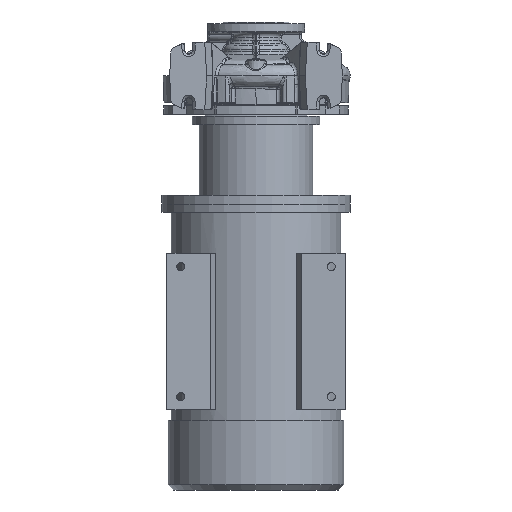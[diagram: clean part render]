
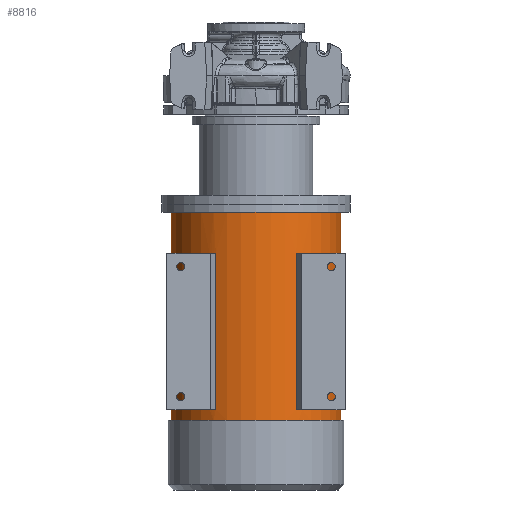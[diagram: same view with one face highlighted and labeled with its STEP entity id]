
A CAD part, front view. The second image highlights one B-rep face of the part: STEP entity #8816.
In plain terms, the highlighted cylindrical face has radius 157.5 mm (diameter 315 mm), a partial arc.
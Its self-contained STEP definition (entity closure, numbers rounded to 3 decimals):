
#1232 = VECTOR ( 'NONE', #6433, 1000. ) ;
#3007 = CARTESIAN_POINT ( 'NONE',  ( 157.5, 0., -638.3 ) ) ;
#3044 = CARTESIAN_POINT ( 'NONE',  ( -157.5, 0., -638.3 ) ) ;
#3651 = DIRECTION ( 'NONE',  ( 0., 0., -1. ) ) ;
#3772 = VERTEX_POINT ( 'NONE', #77335 ) ;
#4699 = CYLINDRICAL_SURFACE ( 'NONE', #55813, 157.5 ) ;
#5723 = AXIS2_PLACEMENT_3D ( 'NONE', #59594, #25848, #25564 ) ;
#6433 = DIRECTION ( 'NONE',  ( 0., 0., -1. ) ) ;
#6602 = CARTESIAN_POINT ( 'NONE',  ( 0., 0., -638.3 ) ) ;
#6775 = CARTESIAN_POINT ( 'NONE',  ( 74.479, -138.777, -618.8 ) ) ;
#6824 = VERTEX_POINT ( 'NONE', #3044 ) ;
#8562 = CARTESIAN_POINT ( 'NONE',  ( -74.479, -138.777, -618.8 ) ) ;
#8816 = ADVANCED_FACE ( 'NONE', ( #54756, #9016, #64528 ), #4699, .T. ) ;
#9016 = FACE_BOUND ( 'NONE', #28162, .T. ) ;
#9833 = ORIENTED_EDGE ( 'NONE', *, *, #36412, .F. ) ;
#11827 = CIRCLE ( 'NONE', #85971, 157.5 ) ;
#12126 = CARTESIAN_POINT ( 'NONE',  ( 0., 0., -328.8 ) ) ;
#12633 = CARTESIAN_POINT ( 'NONE',  ( 0., 0., -618.8 ) ) ;
#13767 = ORIENTED_EDGE ( 'NONE', *, *, #88246, .T. ) ;
#14919 = CARTESIAN_POINT ( 'NONE',  ( 86.091, -131.889, -767.3 ) ) ;
#15345 = CARTESIAN_POINT ( 'NONE',  ( -157.5, 0., -252.3 ) ) ;
#16056 = VECTOR ( 'NONE', #62670, 1000. ) ;
#17167 = EDGE_CURVE ( 'NONE', #46474, #18650, #84107, .T. ) ;
#17194 = DIRECTION ( 'NONE',  ( -1., 0., 0. ) ) ;
#17214 = EDGE_LOOP ( 'NONE', ( #31939, #66684, #75159, #40599 ) ) ;
#18229 = LINE ( 'NONE', #69943, #16056 ) ;
#18650 = VERTEX_POINT ( 'NONE', #25255 ) ;
#21902 = DIRECTION ( 'NONE',  ( 0., 0., 1. ) ) ;
#22750 = VERTEX_POINT ( 'NONE', #87133 ) ;
#23783 = CARTESIAN_POINT ( 'NONE',  ( 157.5, 0., -767.3 ) ) ;
#25255 = CARTESIAN_POINT ( 'NONE',  ( -86.091, -131.889, -618.8 ) ) ;
#25564 = DIRECTION ( 'NONE',  ( -1., 0., 0. ) ) ;
#25848 = DIRECTION ( 'NONE',  ( 0., 0., 1. ) ) ;
#26029 = EDGE_CURVE ( 'NONE', #46474, #45843, #66008, .T. ) ;
#27020 = VERTEX_POINT ( 'NONE', #56671 ) ;
#28149 = VECTOR ( 'NONE', #21902, 1000. ) ;
#28162 = EDGE_LOOP ( 'NONE', ( #67403, #53247, #13767, #69535 ) ) ;
#29142 = DIRECTION ( 'NONE',  ( 0., 0., -1. ) ) ;
#31939 = ORIENTED_EDGE ( 'NONE', *, *, #73930, .F. ) ;
#32287 = EDGE_CURVE ( 'NONE', #83186, #3772, #42311, .T. ) ;
#33949 = DIRECTION ( 'NONE',  ( 0., 0., 1. ) ) ;
#34528 = EDGE_CURVE ( 'NONE', #45152, #6824, #11827, .T. ) ;
#36035 = CIRCLE ( 'NONE', #83427, 157.5 ) ;
#36408 = CIRCLE ( 'NONE', #71047, 157.5 ) ;
#36412 = EDGE_CURVE ( 'NONE', #86268, #18650, #51236, .T. ) ;
#37475 = VECTOR ( 'NONE', #79672, 1000. ) ;
#37704 = CARTESIAN_POINT ( 'NONE',  ( 0., 0., -767.3 ) ) ;
#39570 = CARTESIAN_POINT ( 'NONE',  ( 0., 0., -252.3 ) ) ;
#40599 = ORIENTED_EDGE ( 'NONE', *, *, #34528, .F. ) ;
#42311 = LINE ( 'NONE', #63480, #28149 ) ;
#43523 = CARTESIAN_POINT ( 'NONE',  ( 0., 0., -328.8 ) ) ;
#45152 = VERTEX_POINT ( 'NONE', #3007 ) ;
#45843 = VERTEX_POINT ( 'NONE', #75807 ) ;
#46329 = EDGE_CURVE ( 'NONE', #45843, #86268, #36035, .T. ) ;
#46474 = VERTEX_POINT ( 'NONE', #8562 ) ;
#46698 = DIRECTION ( 'NONE',  ( -1., 0., 0. ) ) ;
#49435 = DIRECTION ( 'NONE',  ( 1., 0., 0. ) ) ;
#50264 = VERTEX_POINT ( 'NONE', #15345 ) ;
#51236 = LINE ( 'NONE', #82425, #1232 ) ;
#52062 = DIRECTION ( 'NONE',  ( 0., 0., 1. ) ) ;
#53247 = ORIENTED_EDGE ( 'NONE', *, *, #32287, .T. ) ;
#54756 = FACE_OUTER_BOUND ( 'NONE', #17214, .T. ) ;
#55493 = EDGE_LOOP ( 'NONE', ( #87839, #64133, #9833, #65008 ) ) ;
#55813 = AXIS2_PLACEMENT_3D ( 'NONE', #37704, #86235, #46698 ) ;
#56144 = DIRECTION ( 'NONE',  ( -1., 0., 0. ) ) ;
#56671 = CARTESIAN_POINT ( 'NONE',  ( 157.5, 0., -252.3 ) ) ;
#58966 = DIRECTION ( 'NONE',  ( -1., 0., 0. ) ) ;
#59583 = EDGE_CURVE ( 'NONE', #27020, #50264, #36408, .T. ) ;
#59594 = CARTESIAN_POINT ( 'NONE',  ( 0., 0., -618.8 ) ) ;
#60894 = EDGE_CURVE ( 'NONE', #50264, #6824, #18229, .T. ) ;
#61246 = DIRECTION ( 'NONE',  ( 0., 0., -1. ) ) ;
#62479 = VECTOR ( 'NONE', #29142, 1000. ) ;
#62670 = DIRECTION ( 'NONE',  ( 0., 0., -1. ) ) ;
#63480 = CARTESIAN_POINT ( 'NONE',  ( 74.479, -138.777, -767.3 ) ) ;
#64133 = ORIENTED_EDGE ( 'NONE', *, *, #17167, .T. ) ;
#64528 = FACE_BOUND ( 'NONE', #55493, .T. ) ;
#65008 = ORIENTED_EDGE ( 'NONE', *, *, #46329, .F. ) ;
#66008 = LINE ( 'NONE', #75584, #70316 ) ;
#66684 = ORIENTED_EDGE ( 'NONE', *, *, #59583, .T. ) ;
#67403 = ORIENTED_EDGE ( 'NONE', *, *, #86491, .F. ) ;
#69535 = ORIENTED_EDGE ( 'NONE', *, *, #85898, .T. ) ;
#69838 = DIRECTION ( 'NONE',  ( 0., 0., -1. ) ) ;
#69943 = CARTESIAN_POINT ( 'NONE',  ( -157.5, 0., -767.3 ) ) ;
#70316 = VECTOR ( 'NONE', #33949, 1000. ) ;
#71047 = AXIS2_PLACEMENT_3D ( 'NONE', #39570, #3651, #58966 ) ;
#72477 = VERTEX_POINT ( 'NONE', #90151 ) ;
#73344 = LINE ( 'NONE', #23783, #37475 ) ;
#73930 = EDGE_CURVE ( 'NONE', #27020, #45152, #73344, .T. ) ;
#74939 = CIRCLE ( 'NONE', #88688, 157.5 ) ;
#75159 = ORIENTED_EDGE ( 'NONE', *, *, #60894, .T. ) ;
#75287 = CARTESIAN_POINT ( 'NONE',  ( -86.091, -131.889, -328.8 ) ) ;
#75584 = CARTESIAN_POINT ( 'NONE',  ( -74.479, -138.777, -767.3 ) ) ;
#75807 = CARTESIAN_POINT ( 'NONE',  ( -74.479, -138.777, -328.8 ) ) ;
#76534 = CIRCLE ( 'NONE', #5723, 157.5 ) ;
#77335 = CARTESIAN_POINT ( 'NONE',  ( 74.479, -138.777, -328.8 ) ) ;
#77978 = DIRECTION ( 'NONE',  ( 0., 0., -1. ) ) ;
#79672 = DIRECTION ( 'NONE',  ( 0., 0., -1. ) ) ;
#80981 = LINE ( 'NONE', #14919, #62479 ) ;
#82425 = CARTESIAN_POINT ( 'NONE',  ( -86.091, -131.889, -767.3 ) ) ;
#83186 = VERTEX_POINT ( 'NONE', #6775 ) ;
#83362 = DIRECTION ( 'NONE',  ( 1., 0., 0. ) ) ;
#83427 = AXIS2_PLACEMENT_3D ( 'NONE', #12126, #77978, #49435 ) ;
#84107 = CIRCLE ( 'NONE', #89080, 157.5 ) ;
#85898 = EDGE_CURVE ( 'NONE', #22750, #72477, #80981, .T. ) ;
#85971 = AXIS2_PLACEMENT_3D ( 'NONE', #6602, #69838, #56144 ) ;
#86235 = DIRECTION ( 'NONE',  ( 0., 0., -1. ) ) ;
#86268 = VERTEX_POINT ( 'NONE', #75287 ) ;
#86491 = EDGE_CURVE ( 'NONE', #83186, #72477, #76534, .T. ) ;
#87133 = CARTESIAN_POINT ( 'NONE',  ( 86.091, -131.889, -328.8 ) ) ;
#87839 = ORIENTED_EDGE ( 'NONE', *, *, #26029, .F. ) ;
#88246 = EDGE_CURVE ( 'NONE', #3772, #22750, #74939, .T. ) ;
#88688 = AXIS2_PLACEMENT_3D ( 'NONE', #43523, #52062, #17194 ) ;
#89080 = AXIS2_PLACEMENT_3D ( 'NONE', #12633, #61246, #83362 ) ;
#90151 = CARTESIAN_POINT ( 'NONE',  ( 86.091, -131.889, -618.8 ) ) ;
